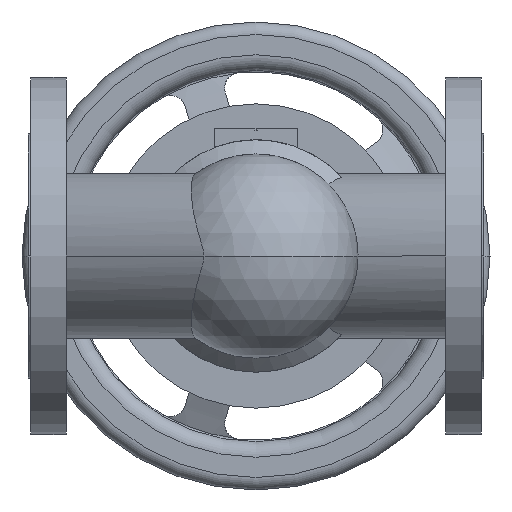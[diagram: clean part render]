
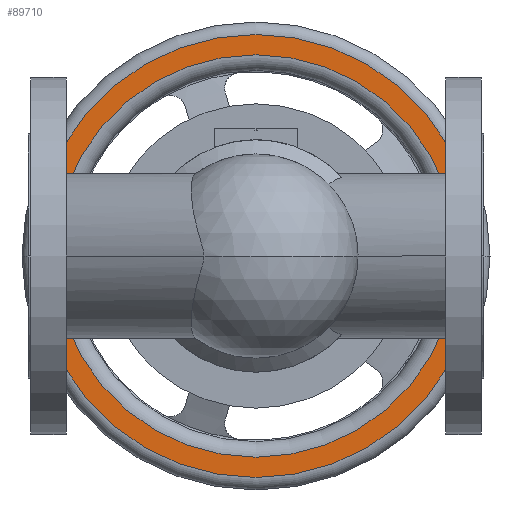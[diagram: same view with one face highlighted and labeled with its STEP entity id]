
A CAD part, front view. The second image highlights one B-rep face of the part: STEP entity #89710.
In plain terms, the highlighted planar face has unit normal (0, -1, 0).
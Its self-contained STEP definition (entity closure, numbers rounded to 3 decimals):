
#89010=CARTESIAN_POINT('',(146.,404.3,0.));
#89020=DIRECTION('',(0.,1.,0.));
#89030=DIRECTION('',(-1.,0.,0.));
#89040=AXIS2_PLACEMENT_3D('',#89010,#89020,#89030);
#89050=CIRCLE('',#89040,129.);
#89060=CARTESIAN_POINT('',(146.,404.3,129.));
#89070=VERTEX_POINT('',#89060);
#89080=CARTESIAN_POINT('',(275.,404.3,0.));
#89090=VERTEX_POINT('',#89080);
#89100=EDGE_CURVE('',#89070,#89090,#89050,.T.);
#89250=CARTESIAN_POINT('',(17.,404.3,0.));
#89260=VERTEX_POINT('',#89250);
#89290=EDGE_CURVE('',#89260,#89070,#89050,.T.);
#89410=CARTESIAN_POINT('',(10.5,404.3,0.))
;
#89420=DIRECTION('',(0.,-1.,0.));
#89430=DIRECTION('',(1.,0.,0.));
#89440=AXIS2_PLACEMENT_3D('',#89410,#89420,#89430);
#89450=PLANE('',#89440);
#89460=CARTESIAN_POINT('',(146.,404.3,0.));
#89470=DIRECTION('',(0.,1.,0.));
#89480=DIRECTION('',(-1.,0.,0.));
#89490=AXIS2_PLACEMENT_3D('',#89460,#89470,#89480);
#89500=CIRCLE('',#89490,142.);
#89510=CARTESIAN_POINT('',(146.,404.3,-142.));
#89520=VERTEX_POINT('',#89510);
#89530=CARTESIAN_POINT('',(4.,404.3,0.));
#89540=VERTEX_POINT('',#89530);
#89550=EDGE_CURVE('',#89520,#89540,#89500,.T.);
#89560=ORIENTED_EDGE('',*,*,#89550,.F.);
#89570=CARTESIAN_POINT('',(288.,404.3,0.));
#89580=VERTEX_POINT('',#89570);
#89590=EDGE_CURVE('',#89540,#89580,#89500,.T.);
#89600=ORIENTED_EDGE('',*,*,#89590,.F.);
#89610=EDGE_CURVE('',#89580,#89520,#89500,.T.);
#89620=ORIENTED_EDGE('',*,*,#89610,.F.);
#89630=EDGE_LOOP('',(#89620,#89600,#89560));
#89640=FACE_OUTER_BOUND('',#89630,.T.);
#89650=EDGE_CURVE('',#89090,#89260,#89050,.T.);
#89660=ORIENTED_EDGE('',*,*,#89650,.T.);
#89670=ORIENTED_EDGE('',*,*,#89100,.T.);
#89680=ORIENTED_EDGE('',*,*,#89290,.T.);
#89690=EDGE_LOOP('',(#89680,#89670,#89660));
#89700=FACE_BOUND('',#89690,.T.);
#89710=ADVANCED_FACE('',(#89640,#89700),#89450,.T.);
